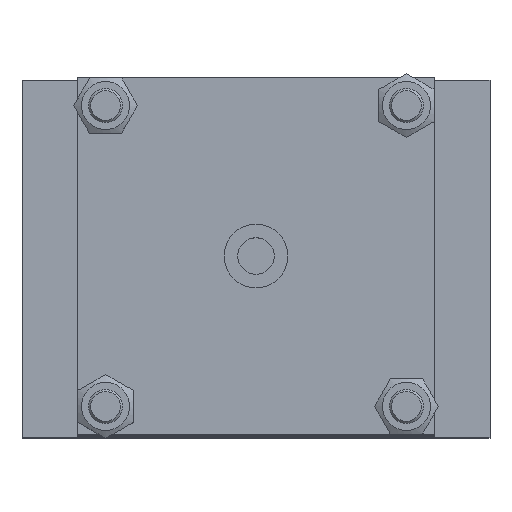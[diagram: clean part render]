
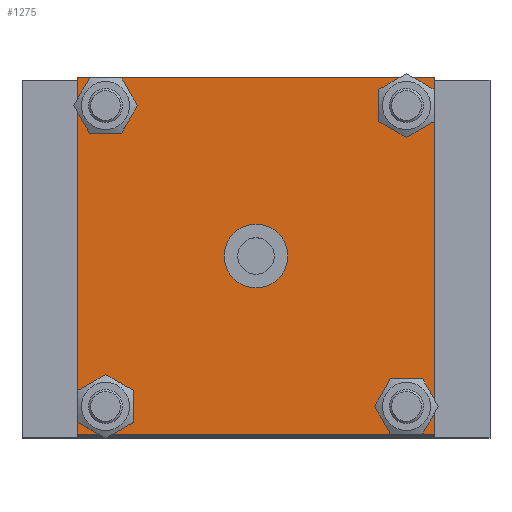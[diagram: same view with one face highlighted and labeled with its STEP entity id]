
A CAD part, top view. The second image highlights one B-rep face of the part: STEP entity #1275.
In plain terms, the highlighted planar face has unit normal (0, 0, 1).
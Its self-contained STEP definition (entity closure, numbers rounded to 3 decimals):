
#363=CARTESIAN_POINT('',(35.355,29.705,456.));
#364=VERTEX_POINT('',#363);
#365=CARTESIAN_POINT('',(35.355,35.355,456.));
#366=DIRECTION('',(0.0,0.0,-1.0));
#367=DIRECTION('',(0.0,-1.0,0.0));
#368=AXIS2_PLACEMENT_3D('',#365,#366,#367);
#369=CIRCLE('',#368,5.65);
#370=EDGE_CURVE('',#364,#364,#369,.T.);
#772=CARTESIAN_POINT('',(-35.355,-29.705,456.));
#773=VERTEX_POINT('',#772);
#774=CARTESIAN_POINT('',(-35.355,-35.355,456.));
#775=DIRECTION('',(0.0,0.0,-1.0));
#776=DIRECTION('',(0.0,1.0,0.0));
#777=AXIS2_PLACEMENT_3D('',#774,#775,#776);
#778=CIRCLE('',#777,5.65);
#779=EDGE_CURVE('',#773,#773,#778,.T.);
#1074=CARTESIAN_POINT('',(-7.5,0.0,456.));
#1075=VERTEX_POINT('',#1074);
#1076=CARTESIAN_POINT('',(0.0,0.0,456.));
#1077=DIRECTION('',(0.0,0.0,-1.0));
#1078=DIRECTION('',(-1.0,0.0,0.0));
#1079=AXIS2_PLACEMENT_3D('',#1076,#1077,#1078);
#1080=CIRCLE('',#1079,7.5);
#1081=EDGE_CURVE('',#1075,#1075,#1080,.T.);
#1114=CARTESIAN_POINT('',(-42.0,-42.,456.));
#1115=VERTEX_POINT('',#1114);
#1116=CARTESIAN_POINT('',(-42.0,42.,456.));
#1117=VERTEX_POINT('',#1116);
#1118=CARTESIAN_POINT('',(-42.0,-42.,456.));
#1119=DIRECTION('',(0.0,1.0,0.0));
#1120=VECTOR('',#1119,84.);
#1121=LINE('',#1118,#1120);
#1122=EDGE_CURVE('',#1115,#1117,#1121,.T.);
#1154=CARTESIAN_POINT('',(42.0,42.,456.));
#1155=VERTEX_POINT('',#1154);
#1156=CARTESIAN_POINT('',(-42.0,42.,456.));
#1157=DIRECTION('',(1.0,0.0,0.0));
#1158=VECTOR('',#1157,84.0);
#1159=LINE('',#1156,#1158);
#1160=EDGE_CURVE('',#1117,#1155,#1159,.T.);
#1185=CARTESIAN_POINT('',(42.0,-42.,456.));
#1186=VERTEX_POINT('',#1185);
#1187=CARTESIAN_POINT('',(42.0,42.,456.));
#1188=DIRECTION('',(0.0,-1.0,0.0));
#1189=VECTOR('',#1188,84.0);
#1190=LINE('',#1187,#1189);
#1191=EDGE_CURVE('',#1155,#1186,#1190,.T.);
#1216=CARTESIAN_POINT('',(42.0,-42.,456.));
#1217=DIRECTION('',(-1.0,0.0,0.0));
#1218=VECTOR('',#1217,84.0);
#1219=LINE('',#1216,#1218);
#1220=EDGE_CURVE('',#1186,#1115,#1219,.T.);
#1233=CARTESIAN_POINT('',(0.,0.,456.));
#1234=DIRECTION('',(0.0,0.0,1.0));
#1235=DIRECTION('',(-1.0,0.0,0.0));
#1236=AXIS2_PLACEMENT_3D('',#1233,#1234,#1235);
#1237=PLANE('',#1236);
#1238=ORIENTED_EDGE('',*,*,#1122,.F.);
#1239=ORIENTED_EDGE('',*,*,#1220,.F.);
#1240=ORIENTED_EDGE('',*,*,#1191,.F.);
#1241=ORIENTED_EDGE('',*,*,#1160,.F.);
#1242=EDGE_LOOP('',(#1238,#1239,#1240,#1241));
#1243=FACE_OUTER_BOUND('',#1242,.T.);
#1244=CARTESIAN_POINT('',(-29.705,35.355,456.));
#1245=VERTEX_POINT('',#1244);
#1246=CARTESIAN_POINT('',(-35.355,35.355,456.));
#1247=DIRECTION('',(0.0,0.0,-1.0));
#1248=DIRECTION('',(1.0,0.0,0.0));
#1249=AXIS2_PLACEMENT_3D('',#1246,#1247,#1248);
#1250=CIRCLE('',#1249,5.65);
#1251=EDGE_CURVE('',#1245,#1245,#1250,.T.);
#1252=ORIENTED_EDGE('',*,*,#1251,.T.);
#1253=EDGE_LOOP('',(#1252));
#1254=FACE_BOUND('',#1253,.T.);
#1255=ORIENTED_EDGE('',*,*,#370,.T.);
#1256=EDGE_LOOP('',(#1255));
#1257=FACE_BOUND('',#1256,.T.);
#1258=CARTESIAN_POINT('',(29.705,-35.355,456.));
#1259=VERTEX_POINT('',#1258);
#1260=CARTESIAN_POINT('',(35.355,-35.355,456.));
#1261=DIRECTION('',(0.0,0.0,-1.0));
#1262=DIRECTION('',(-1.0,0.0,0.0));
#1263=AXIS2_PLACEMENT_3D('',#1260,#1261,#1262);
#1264=CIRCLE('',#1263,5.65);
#1265=EDGE_CURVE('',#1259,#1259,#1264,.T.);
#1266=ORIENTED_EDGE('',*,*,#1265,.T.);
#1267=EDGE_LOOP('',(#1266));
#1268=FACE_BOUND('',#1267,.T.);
#1269=ORIENTED_EDGE('',*,*,#779,.T.);
#1270=EDGE_LOOP('',(#1269));
#1271=FACE_BOUND('',#1270,.T.);
#1272=ORIENTED_EDGE('',*,*,#1081,.T.);
#1273=EDGE_LOOP('',(#1272));
#1274=FACE_BOUND('',#1273,.T.);
#1275=ADVANCED_FACE('',(#1243,#1254,#1257,#1268,#1271,#1274),#1237,.T.);
